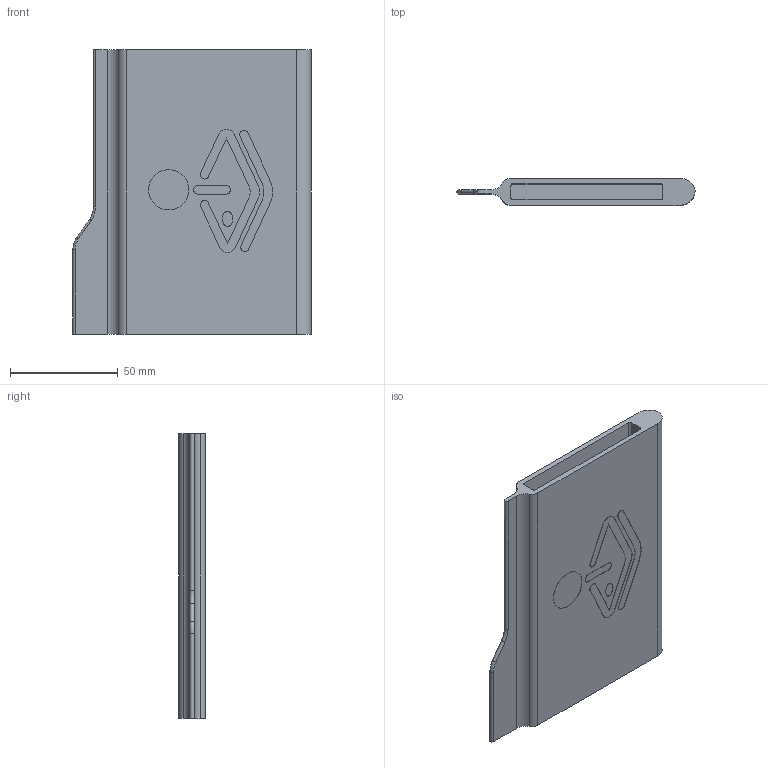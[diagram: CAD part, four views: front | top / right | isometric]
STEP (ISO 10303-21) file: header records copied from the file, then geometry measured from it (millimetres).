
FILE_DESCRIPTION(/* description */ (''),/* implementation_level */ '2;1');
FILE_NAME(/* name */ 'shell games.step',/* time_stamp */ '2025-09-13T07:53:09+02:00',/* author */ (''),/* organization */ (''),/* preprocessor_version */ 'ST-DEVELOPER v20.1',/* originating_system */ 'Autodesk Translation Framework v14.10.0.0',/* authorisation */ '');
FILE_SCHEMA (('AUTOMOTIVE_DESIGN { 1 0 10303 214 3 1 1 }'));
Length unit declared in the file: millimetre
Products named in the file (1): case tipo3
Bounding box: 110.5 x 12.5 x 132 mm (x, y, z)
Volume: 84485.6 mm3; surface area: 50374 mm2
Topology: 1 solids, 1 shells, 60 faces, 157 edges, 105 vertices
Faces by surface type: plane 30, cylinder 27, torus 2, bspline 1
Full cylindrical faces by diameter (mm): 18.639 x1
Entity records: 1916 total; most frequent: CARTESIAN_POINT 350, DIRECTION 334, ORIENTED_EDGE 314, EDGE_CURVE 157, AXIS2_PLACEMENT_3D 119, VERTEX_POINT 105, LINE 96, VECTOR 96
